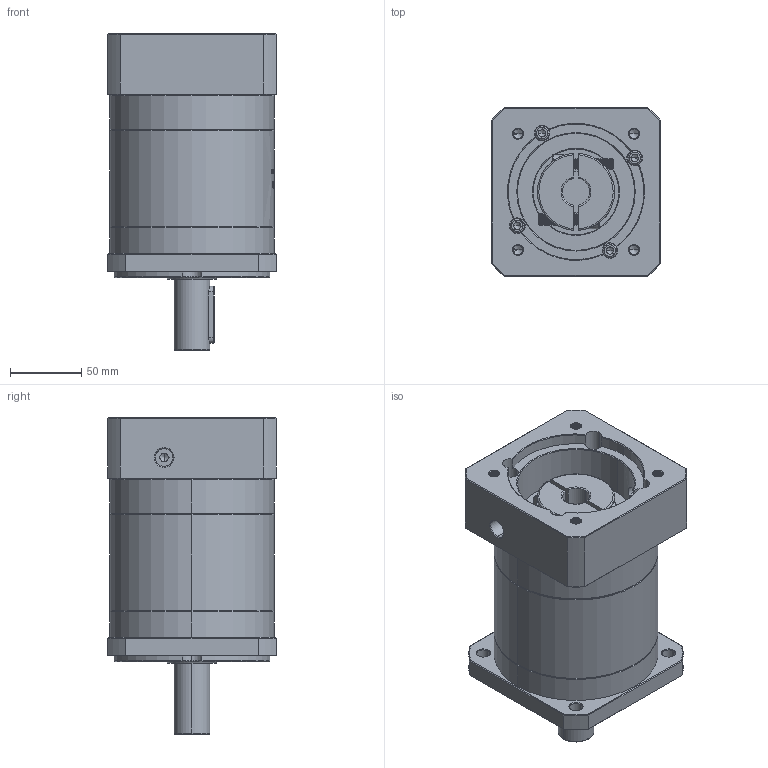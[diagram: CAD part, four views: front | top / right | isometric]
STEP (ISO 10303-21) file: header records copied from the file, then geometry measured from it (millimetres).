
FILE_DESCRIPTION (( 'STEP AP214' ), '1' );
FILE_NAME ('ZF120A-D25-L2-19-95-115-M8.step', '2023-03-07T09:29:22', ( '' ), ( '' ), 'SwSTEP 2.0', 'SolidWorks 2016', '' );
FILE_SCHEMA (( 'AUTOMOTIVE_DESIGN' ));
Length unit declared in the file: millimetre
Products named in the file (1): ZF120A-D25-L2-19-95-115-M8
Bounding box: 118 x 118 x 222 mm (x, y, z)
Volume: 1758880.4 mm3; surface area: 175683.6 mm2
Topology: 6 solids, 6 shells, 1967 faces, 5183 edges, 3310 vertices
Faces by surface type: plane 857, cylinder 429, bspline 341, cone 340
Entity records: 107861 total; most frequent: CARTESIAN_POINT 41463, ORIENTED_EDGE 10306, DIRECTION 7988, EDGE_CURVE 5153, VERTEX_POINT 3310, LINE 2758, VECTOR 2758, AXIS2_PLACEMENT_3D 2615
